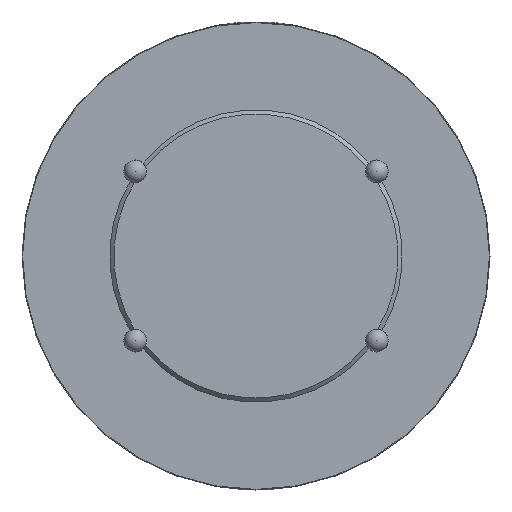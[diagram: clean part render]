
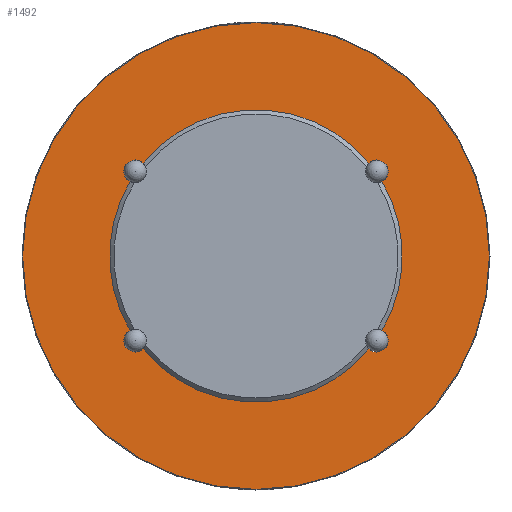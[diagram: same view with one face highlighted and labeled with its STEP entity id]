
A CAD part, left-side view. The second image highlights one B-rep face of the part: STEP entity #1492.
In plain terms, the highlighted planar face has unit normal (-1, 0, 0).
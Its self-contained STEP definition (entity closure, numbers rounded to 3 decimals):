
#52=PLANE('',#1612);
#192=CIRCLE('',#1599,25.);
#194=CIRCLE('',#1602,25.);
#195=CIRCLE('',#1604,25.);
#197=CIRCLE('',#1607,25.);
#199=CIRCLE('',#1610,39.9);
#201=CIRCLE('',#1613,1.96);
#202=CIRCLE('',#1614,1.96);
#203=CIRCLE('',#1615,1.96);
#204=CIRCLE('',#1616,1.96);
#426=ORIENTED_EDGE('',*,*,#819,.F.);
#427=ORIENTED_EDGE('',*,*,#834,.T.);
#428=ORIENTED_EDGE('',*,*,#775,.F.);
#429=ORIENTED_EDGE('',*,*,#835,.T.);
#430=ORIENTED_EDGE('',*,*,#787,.F.);
#431=ORIENTED_EDGE('',*,*,#836,.T.);
#432=ORIENTED_EDGE('',*,*,#759,.F.);
#433=ORIENTED_EDGE('',*,*,#837,.T.);
#434=ORIENTED_EDGE('',*,*,#832,.T.);
#759=EDGE_CURVE('',#971,#948,#192,.T.);
#775=EDGE_CURVE('',#987,#988,#194,.T.);
#787=EDGE_CURVE('',#999,#1000,#195,.T.);
#819=EDGE_CURVE('',#1031,#1032,#197,.T.);
#832=EDGE_CURVE('',#1044,#1044,#199,.T.);
#834=EDGE_CURVE('',#1031,#988,#201,.T.);
#835=EDGE_CURVE('',#987,#1000,#202,.T.);
#836=EDGE_CURVE('',#999,#948,#203,.T.);
#837=EDGE_CURVE('',#971,#1032,#204,.T.);
#948=VERTEX_POINT('',#2157);
#971=VERTEX_POINT('',#2232);
#987=VERTEX_POINT('',#2283);
#988=VERTEX_POINT('',#2285);
#999=VERTEX_POINT('',#2323);
#1000=VERTEX_POINT('',#2325);
#1031=VERTEX_POINT('',#2430);
#1032=VERTEX_POINT('',#2432);
#1044=VERTEX_POINT('',#2473);
#1228=EDGE_LOOP('',(#426,#427,#428,#429,#430,#431,#432,#433));
#1229=EDGE_LOOP('',(#434));
#1350=FACE_BOUND('',#1228,.T.);
#1351=FACE_BOUND('',#1229,.T.);
#1492=ADVANCED_FACE('',(#1350,#1351),#52,.F.);
#1599=AXIS2_PLACEMENT_3D('',#2233,#1791,#1792);
#1602=AXIS2_PLACEMENT_3D('',#2284,#1805,#1806);
#1604=AXIS2_PLACEMENT_3D('',#2324,#1815,#1816);
#1607=AXIS2_PLACEMENT_3D('',#2431,#1837,#1838);
#1610=AXIS2_PLACEMENT_3D('',#2472,#1849,#1850);
#1612=AXIS2_PLACEMENT_3D('',#2476,#1853,#1854);
#1613=AXIS2_PLACEMENT_3D('',#2477,#1855,#1856);
#1614=AXIS2_PLACEMENT_3D('',#2478,#1857,#1858);
#1615=AXIS2_PLACEMENT_3D('',#2479,#1859,#1860);
#1616=AXIS2_PLACEMENT_3D('',#2480,#1861,#1862);
#1791=DIRECTION('',(-1.,0.,0.));
#1792=DIRECTION('',(0.,0.,1.));
#1805=DIRECTION('',(-1.,0.,0.));
#1806=DIRECTION('',(0.,0.,1.));
#1815=DIRECTION('',(-1.,0.,0.));
#1816=DIRECTION('',(0.,0.,1.));
#1837=DIRECTION('',(-1.,0.,0.));
#1838=DIRECTION('',(0.,0.,1.));
#1849=DIRECTION('',(-1.,0.,0.));
#1850=DIRECTION('',(0.,0.,1.));
#1853=DIRECTION('',(1.,0.,0.));
#1854=DIRECTION('',(0.,0.,-1.));
#1855=DIRECTION('',(1.,0.,0.));
#1856=DIRECTION('',(0.,-1.,0.));
#1857=DIRECTION('',(1.,0.,0.));
#1858=DIRECTION('',(0.,1.,0.));
#1859=DIRECTION('',(1.,0.,0.));
#1860=DIRECTION('',(0.,1.,0.));
#1861=DIRECTION('',(1.,0.,0.));
#1862=DIRECTION('',(0.,-1.,0.));
#2157=CARTESIAN_POINT('',(-62.5,-19.305,-15.885));
#2232=CARTESIAN_POINT('',(-62.5,19.305,-15.885));
#2233=CARTESIAN_POINT('',(-62.5,0.,0.));
#2283=CARTESIAN_POINT('',(-62.5,-19.305,15.885));
#2284=CARTESIAN_POINT('',(-62.5,0.,0.));
#2285=CARTESIAN_POINT('',(-62.5,19.305,15.885));
#2323=CARTESIAN_POINT('',(-62.5,-21.529,-12.708));
#2324=CARTESIAN_POINT('',(-62.5,0.,0.));
#2325=CARTESIAN_POINT('',(-62.5,-21.529,12.708));
#2430=CARTESIAN_POINT('',(-62.5,21.529,12.708));
#2431=CARTESIAN_POINT('',(-62.5,0.,0.));
#2432=CARTESIAN_POINT('',(-62.5,21.529,-12.708));
#2472=CARTESIAN_POINT('',(-62.5,0.,0.));
#2473=CARTESIAN_POINT('',(-62.5,0.,39.9));
#2476=CARTESIAN_POINT('',(-62.5,39.9,0.));
#2477=CARTESIAN_POINT('',(-62.5,20.651,14.46));
#2478=CARTESIAN_POINT('',(-62.5,-20.651,14.46));
#2479=CARTESIAN_POINT('',(-62.5,-20.651,-14.46));
#2480=CARTESIAN_POINT('',(-62.5,20.651,-14.46));
